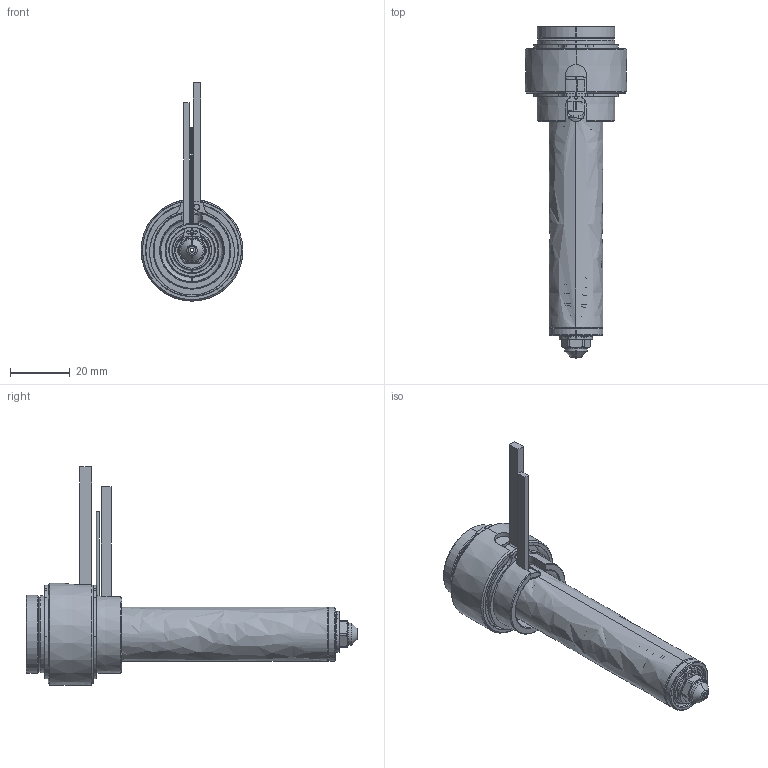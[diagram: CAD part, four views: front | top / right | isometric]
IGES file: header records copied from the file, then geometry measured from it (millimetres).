
Start section: SolidWorks IGES file using analytic representation for surfaces
Global section: file name: C:\Documents and Settings\ws-20\Desktop\TEM\UGER2503-S-A-1 [Øb-1.30 ØC-4.0].IGS; native system: SolidWorks 2012; preprocessor: SolidWorks 2012; author: ws-20; date: 120405.102007; units: millimetre
Bounding box: 34 x 110.9 x 72.9 mm (x, y, z)
Surface area: 25290.7 mm2 (no closed solid volume)
Topology: 0 solids, 0 shells, 204 faces, 2715 edges, 2715 vertices
Faces by surface type: revolution 129, bspline 75
